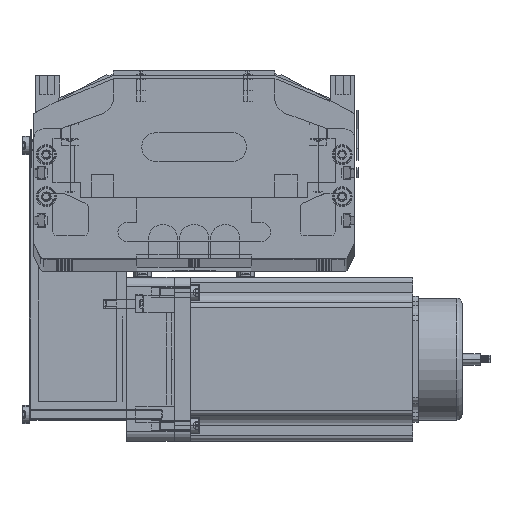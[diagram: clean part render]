
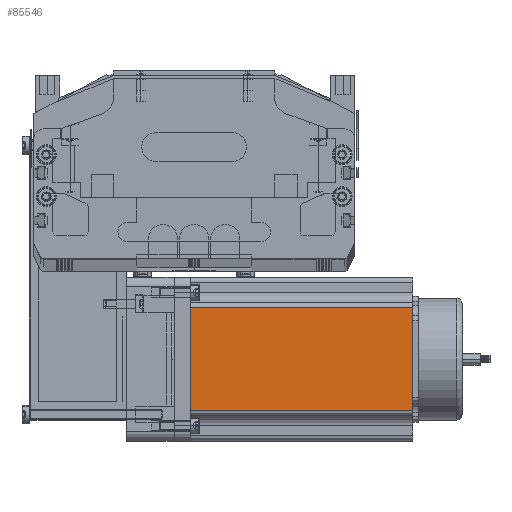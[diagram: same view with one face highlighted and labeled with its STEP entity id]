
A CAD part, top view. The second image highlights one B-rep face of the part: STEP entity #85546.
In plain terms, the highlighted planar face has unit normal (0, 0, 1) as drawn and (0, -1, 0) by its records, which use the part's own axes.
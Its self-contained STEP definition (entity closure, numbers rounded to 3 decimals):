
#8832 = CARTESIAN_POINT ( 'NONE',  ( 0., 0., 116.5 ) ) ;
#8902 = DIRECTION ( 'NONE',  ( 0., 0., 1. ) ) ;
#8911 = AXIS2_PLACEMENT_3D ( 'NONE', #8832, #8937, #8902 ) ;
#8925 = PLANE ( 'NONE',  #8911 ) ;
#8937 = DIRECTION ( 'NONE',  ( 0., 1., 0. ) ) ;
#8948 = FACE_OUTER_BOUND ( 'NONE', #85441, .T. ) ;
#9170 = CARTESIAN_POINT ( 'NONE',  ( 69.74, 0., 116.5 ) ) ;
#9683 = DIRECTION ( 'NONE',  ( 1., 0., 0. ) ) ;
#9729 = VECTOR ( 'NONE', #9683, 1000. ) ;
#9731 = CARTESIAN_POINT ( 'NONE',  ( 0., 0., 0. ) ) ;
#9732 = LINE ( 'NONE', #9731, #9729 ) ;
#10300 = CARTESIAN_POINT ( 'NONE',  ( 16.16, 0., 0. ) ) ;
#10412 = CARTESIAN_POINT ( 'NONE',  ( 69.74, 0., 0. ) ) ;
#13698 = DIRECTION ( 'NONE',  ( 0., 0., 1. ) ) ;
#13700 = VECTOR ( 'NONE', #13698, 1000. ) ;
#13702 = CARTESIAN_POINT ( 'NONE',  ( 69.74, 0., 116.5 ) ) ;
#13729 = LINE ( 'NONE', #13702, #13700 ) ;
#15857 = LINE ( 'NONE', #15981, #15979 ) ;
#15948 = CARTESIAN_POINT ( 'NONE',  ( 16.16, 0., 116.5 ) ) ;
#15978 = DIRECTION ( 'NONE',  ( 0., 0., -1. ) ) ;
#15979 = VECTOR ( 'NONE', #15978, 1000. ) ;
#15981 = CARTESIAN_POINT ( 'NONE',  ( 16.16, 0., 116.5 ) ) ;
#16243 = DIRECTION ( 'NONE',  ( 1., 0., 0. ) ) ;
#16244 = VECTOR ( 'NONE', #16243, 1000. ) ;
#16245 = CARTESIAN_POINT ( 'NONE',  ( 0., 0., 116.5 ) ) ;
#16247 = LINE ( 'NONE', #16245, #16244 ) ;
#60062 = EDGE_CURVE ( 'NONE', #85856, #85633, #13729, .T. ) ;
#60419 = ORIENTED_EDGE ( 'NONE', *, *, #60420, .T. ) ;
#60420 = EDGE_CURVE ( 'NONE', #60434, #85803, #15857, .T. ) ;
#60434 = VERTEX_POINT ( 'NONE', #15948 ) ;
#60440 = ORIENTED_EDGE ( 'NONE', *, *, #60518, .F. ) ;
#60518 = EDGE_CURVE ( 'NONE', #60434, #85633, #16247, .T. ) ;
#85441 = EDGE_LOOP ( 'NONE', ( #85609, #85847, #60440, #60419 ) ) ;
#85546 = ADVANCED_FACE ( 'NONE', ( #8948 ), #8925, .F. ) ;
#85609 = ORIENTED_EDGE ( 'NONE', *, *, #85679, .T. ) ;
#85633 = VERTEX_POINT ( 'NONE', #9170 ) ;
#85679 = EDGE_CURVE ( 'NONE', #85803, #85856, #9732, .T. ) ;
#85803 = VERTEX_POINT ( 'NONE', #10300 ) ;
#85847 = ORIENTED_EDGE ( 'NONE', *, *, #60062, .T. ) ;
#85856 = VERTEX_POINT ( 'NONE', #10412 ) ;
